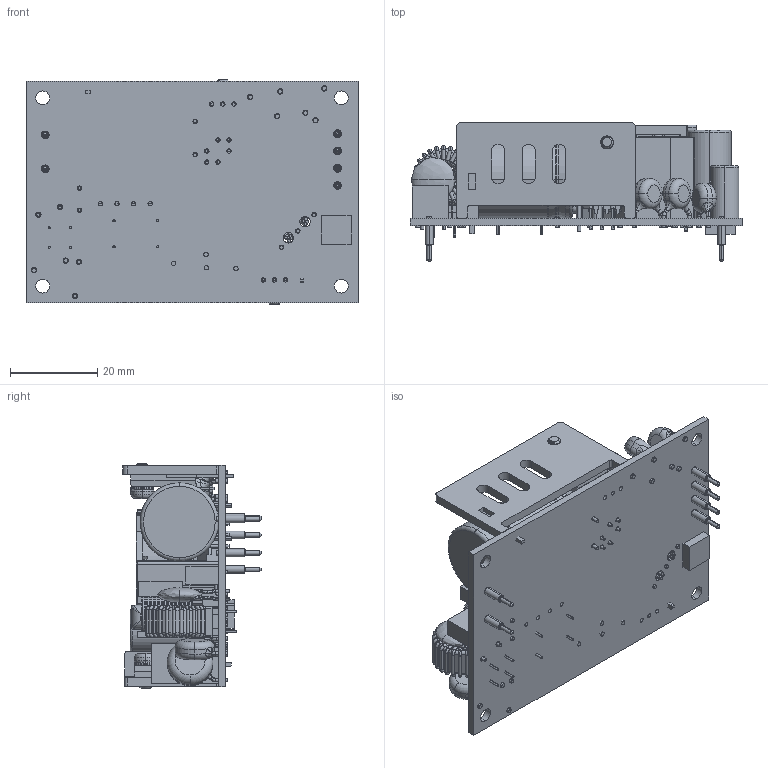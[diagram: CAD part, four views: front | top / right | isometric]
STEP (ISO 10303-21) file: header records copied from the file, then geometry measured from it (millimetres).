
FILE_DESCRIPTION (( 'STEP AP203' ), '1' );
FILE_NAME ('CFM50M(S)XXX-P ¦¨«~¹Ï M-B128-F (V1.1)-20250310.STEP', '2025-03-10T00:50:31', ( 'cincon' ), ( '' ), 'SwSTEP 2.0', 'SolidWorks 2020', '' );
FILE_SCHEMA (( 'CONFIG_CONTROL_DESIGN' ));
Length unit declared in the file: millimetre
Products named in the file (21): RM-10-CASE-3P示意圖2020.12.11; TR70M 散熱片2 G6612470123 (M-B142-00-J)-1070126; CFM70MXXX  CY1電容示意圖2020.12.11; CFM70MXXX變壓器示意圖2020.12.11; CFM50M(S)XXX-P 成品圖 M-B128-F (V1.1)-20250310; CFM70MXXX橋式整流器電晶體示意圖2020.12.14; CFM70SXXX-P PCB示意圖2020.12.15; ､鎹IN-(ｩl)-1070104; CFM70MXXX  CY3電容示意圖2020.12.11; CFM70MXXX CORE L2示意圖2020.12.14; M3螺絲和華司6mm 2020.12.14; CFM80S 散熱片40x22mm  T=2.0mmG6611530412(M-B103-00-J); CFM70MXXX CORE L1示意圖2020.12.11; 18mm,26.mm電容示意圖2020.12.11; ､鎹INA; CFM70MXXX  T2A電容示意圖2020.12.11; 電晶體10mm 19.4mm 2020.12.14; CFM70MXXX  Z1電容示意圖2020.12.11; CFM70MXXX  CY6電容示意圖2020.12.11; CFM80S 散熱片40x22mm  T=2.0mmG6611530412(M-B103-00-J).SLDPRT
Assembly tree (25 placements, depth 3):
  CFM50M(S)XXX-P 成品圖 M-B128-F (V1.1)-20250310
    CFM70SXXX-P PCB示意圖2020.12.15
    RM-10-CASE-3P示意圖2020.12.11
    CFM70MXXX變壓器示意圖2020.12.11
    CFM70MXXX CORE L2示意圖2020.12.14
    18mm,26.mm電容示意圖2020.12.11
    CFM70MXXX  CY1電容示意圖2020.12.11  x3
    CFM70MXXX  CY3電容示意圖2020.12.11  x2
    CFM70MXXX  CY6電容示意圖2020.12.11
    CFM70MXXX  T2A電容示意圖2020.12.11
    CFM70MXXX  Z1電容示意圖2020.12.11
    CFM70MXXX CORE L1示意圖2020.12.11
    TR70M 散熱片2 G6612470123 (M-B142-00-J)-1070126
      TR70M 散熱片2 G6612470123 (M-B142-00-J)-1070126
      ､鎹IN-(ｩl)-1070104
    M3螺絲和華司6mm 2020.12.14  x2
    電晶體10mm 19.4mm 2020.12.14  x2
    CFM80S 散熱片40x22mm  T=2.0mmG6611530412(M-B103-00-J).SLDPRT
      CFM80S 散熱片40x22mm  T=2.0mmG6611530412(M-B103-00-J)
      ､鎹INA
    CFM70MXXX橋式整流器電晶體示意圖2020.12.14
Bounding box: 76.2 x 31.8 x 51.56 mm (x, y, z)
Volume: 33463.9 mm3; surface area: 39442 mm2
Topology: 115 solids, 146 shells, 2478 faces, 6175 edges, 4017 vertices
Faces by surface type: cylinder 1115, plane 850, torus 369, bspline 108, cone 36
Entity records: 79635 total; most frequent: CARTESIAN_POINT 21004, DIRECTION 12747, ORIENTED_EDGE 11252, EDGE_CURVE 5630, AXIS2_PLACEMENT_3D 5220, VERTEX_POINT 3682, CIRCLE 2991, EDGE_LOOP 2602
